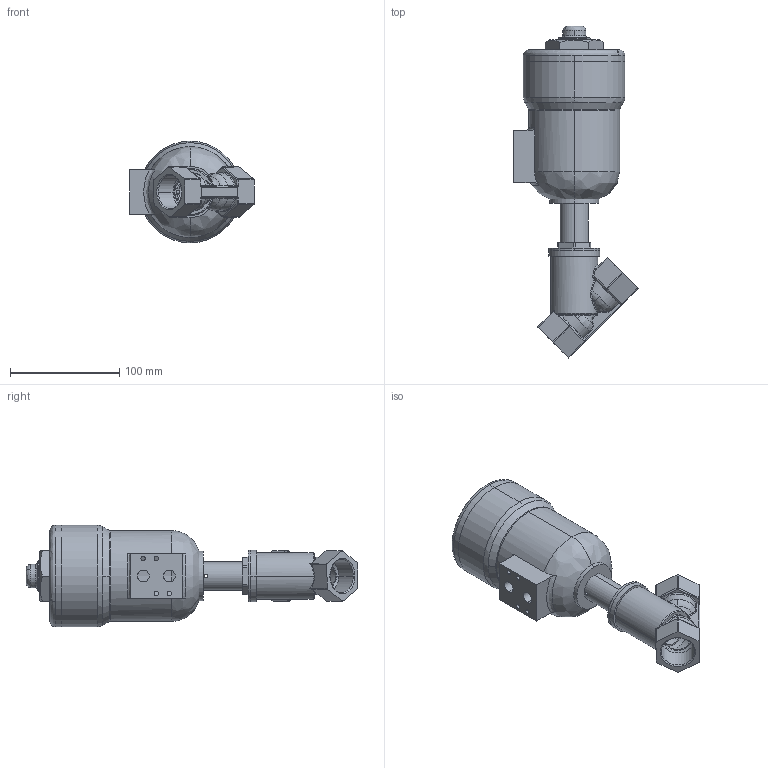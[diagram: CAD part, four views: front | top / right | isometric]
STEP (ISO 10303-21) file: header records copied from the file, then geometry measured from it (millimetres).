
FILE_DESCRIPTION (( 'STEP AP203' ), '1' );
FILE_NAME ('PCIPFM_025_2_1.STEP', '2017-07-25T16:12:16', ( 'user' ), ( '' ), 'SwSTEP 2.0', 'SolidWorks 2013', '' );
FILE_SCHEMA (( 'CONFIG_CONTROL_DESIGN' ));
Length unit declared in the file: millimetre
Products named in the file (1): PCIPFM_025_2_1
Bounding box: 114.28 x 303.92 x 93 mm (x, y, z)
Surface area: 86945.9 mm2 (no closed solid volume)
Topology: 0 solids, 6 shells, 314 faces, 827 edges, 489 vertices
Faces by surface type: bspline 118, cylinder 102, plane 71, cone 23
Entity records: 16500 total; most frequent: CARTESIAN_POINT 9684, ORIENTED_EDGE 1502, DIRECTION 1240, EDGE_CURVE 799, AXIS2_PLACEMENT_3D 497, VERTEX_POINT 489, EDGE_LOOP 336, ADVANCED_FACE 314
